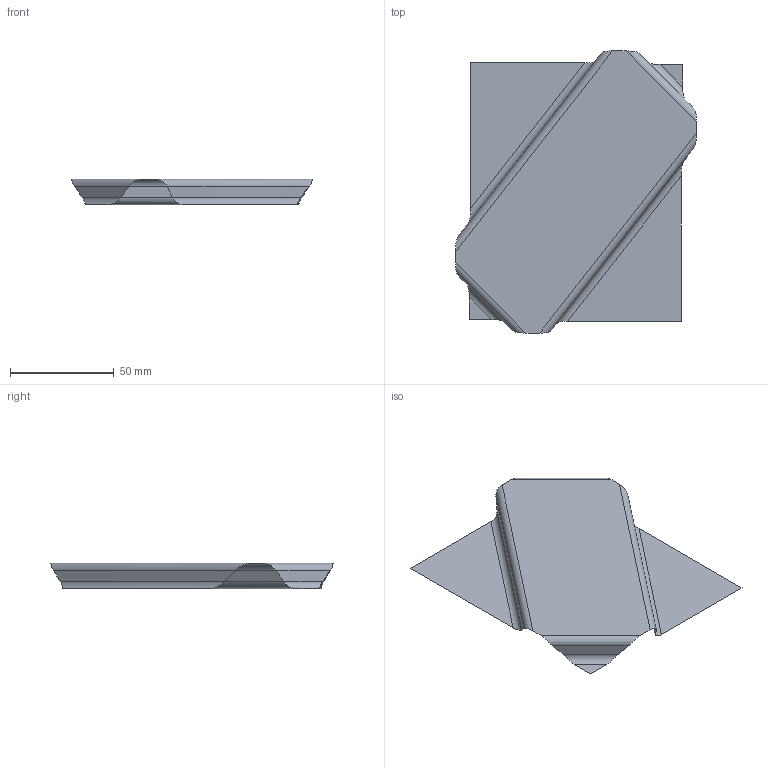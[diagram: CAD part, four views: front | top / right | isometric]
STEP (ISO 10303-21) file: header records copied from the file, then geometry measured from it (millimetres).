
FILE_DESCRIPTION(('CATIA V5 STEP Exchange'),'2;1');
FILE_NAME('C:\_Andres\UNIVERSIDAD\IQS\ASIGNATURAS\DAO\EXF\EXF-15161c\1original\Subirada_Blanco_Ej03-chapa_v26.stp','2016-03-04T16:56:15+00:00',('none'),('none'),'CATIA Version 5 Release 20 SP 1 (IN-10)','CATIA V5 STEP AP203','none');
FILE_SCHEMA(('CONFIG_CONTROL_DESIGN'));
Length unit declared in the file: millimetre
Products named in the file (1): Subirada_Blanco_Ej03-chapa_v26
Bounding box: 116.01 x 136.01 x 12.29 mm (x, y, z)
Surface area: 15824 mm2 (no closed solid volume)
Topology: 0 solids, 1 shells, 17 faces, 52 edges, 36 vertices
Faces by surface type: plane 9, cylinder 8
Entity records: 622 total; most frequent: CARTESIAN_POINT 203, ORIENTED_EDGE 68, DIRECTION 56, EDGE_CURVE 52, VERTEX_POINT 36, B_SPLINE_CURVE_WITH_KNOTS 32, VECTOR 20, LINE 20
